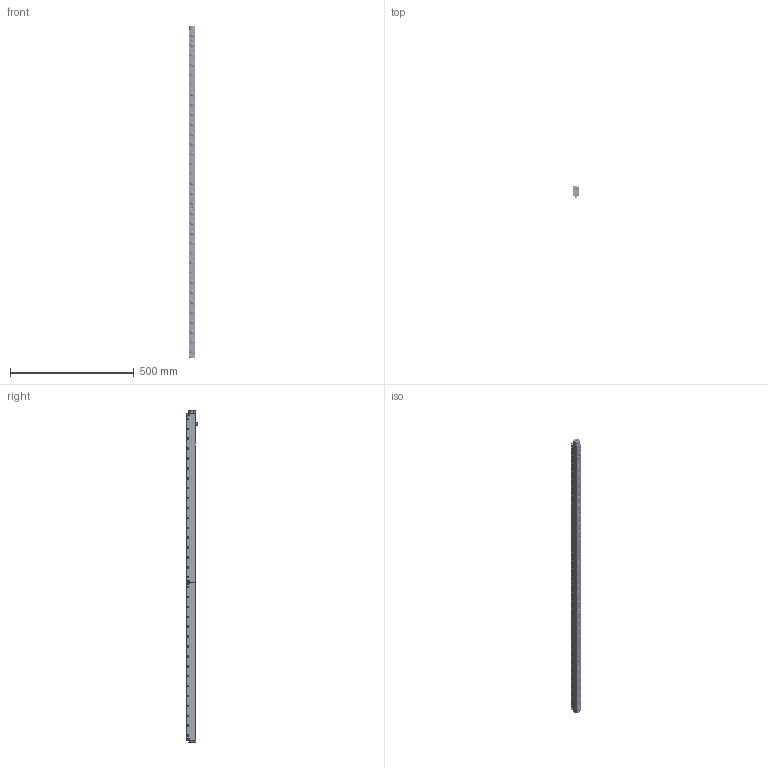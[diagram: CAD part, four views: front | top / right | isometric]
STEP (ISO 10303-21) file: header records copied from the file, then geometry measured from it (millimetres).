
FILE_DESCRIPTION(/* description */ ('EHR22-33'),/* implementation_level */ '2;1');
FILE_NAME(/* name */ 'S:\EASCN Vault\Designs\Standard Part\DIE LIFTERS\EHR\EHR- 3D step\EHR22 - 3D step complete serie\EHR22-33.stp',/* time_stamp */ '2019-10-28T16:51:57+08:00',/* author */ ('yue.yang'),/* organization */ (''),/* preprocessor_version */ 'ST-DEVELOPER v17',/* originating_system */ 'Autodesk Inventor 2019',/* authorisation */ '');
FILE_SCHEMA (('AUTOMOTIVE_DESIGN { 1 0 10303 214 3 1 1 }'));
Products named in the file (2): EHR22-33; EHR22-33_Substitute_1
Assembly tree (1 placements, depth 2):
  EHR22-33
    EHR22-33_Substitute_1
Bounding box: 21.8 x 48.05 x 1342 mm (x, y, z)
Volume: 824323 mm3; surface area: 339379.5 mm2
Topology: 117 solids, 117 shells, 1877 faces, 5291 edges, 3675 vertices
Faces by surface type: cylinder 650, plane 454, cone 400, torus 305, sphere 68
Full cylindrical faces by diameter (mm): 2.459 x16, 3 x9, 3.2 x8, 4 x20, 5 x99, 6 x43, 7.5 x2, 8.566 x1, 10 x11, 11 x33, 12.5 x66, 13.4 x33, 13.8 x33, 15.95 x66, 16 x66
Entity records: 68506 total; most frequent: CARTESIAN_POINT 15196, DIRECTION 11886, ORIENTED_EDGE 10464, AXIS2_PLACEMENT_3D 5279, EDGE_CURVE 5232, VERTEX_POINT 3675, CIRCLE 3399, EDGE_LOOP 2223
